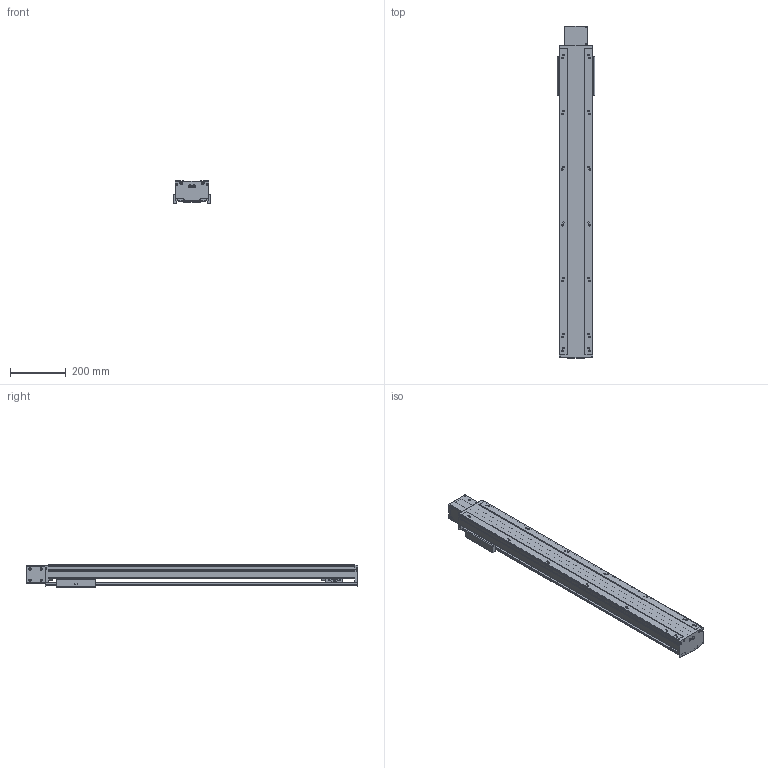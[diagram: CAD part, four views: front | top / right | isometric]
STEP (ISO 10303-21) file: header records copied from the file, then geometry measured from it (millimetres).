
FILE_DESCRIPTION(/* description */ (''),/* implementation_level */ '2;1');
FILE_NAME(/* name */ 'TKB120-FR-1000_asm1_stp_stp.stp',/* time_stamp */ '2016-06-28T16:06:04+08:00',/* author */ (''),/* organization */ (''),/* preprocessor_version */ 'ST-DEVELOPER v15',/* originating_system */ 'SIEMENS PLM Software NX 8.5',/* authorisation */ '');
FILE_SCHEMA (('AUTOMOTIVE_DESIGN { 1 0 10303 214 3 1 1 1 }'));
Length unit declared in the file: millimetre
Products named in the file (3): 200-2; 200-1; TKB120-FR-1000_asm1_stp_stp
Assembly tree (2 placements, depth 2):
  TKB120-FR-1000_asm1_stp_stp
    200-1
    200-2
Bounding box: 134 x 1191 x 80 mm (x, y, z)
Volume: 3189118.7 mm3; surface area: 1262362.3 mm2
Topology: 2 solids, 3 shells, 783 faces, 2276 edges, 1502 vertices
Faces by surface type: cylinder 383, plane 358, cone 42
Full cylindrical faces by diameter (mm): 2.5 x4, 3.3 x20, 4.2 x4, 4.5 x24, 5 x24, 5.5 x14, 6.6 x6, 6.8 x4, 7.5 x4, 8 x12, 9 x6, 9.75 x28, 10.5 x4, 11 x2, 12 x4, 14 x2, 17 x2, 35 x2, 40 x3, 50 x2, 52 x1
Entity records: 25342 total; most frequent: CARTESIAN_POINT 5363, DIRECTION 4213, ORIENTED_EDGE 3848, EDGE_CURVE 1924, AXIS2_PLACEMENT_3D 1598, VERTEX_POINT 1406, EDGE_LOOP 1164, LINE 1017
